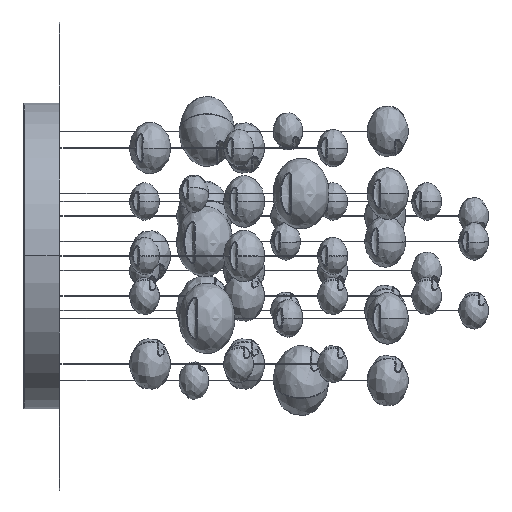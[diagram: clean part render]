
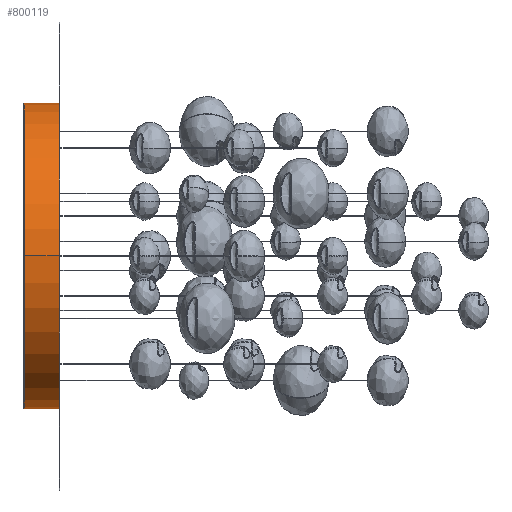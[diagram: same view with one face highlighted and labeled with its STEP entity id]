
A CAD part, left-side view. The second image highlights one B-rep face of the part: STEP entity #800119.
In plain terms, the highlighted cylindrical face has radius 325 mm (diameter 650 mm), a partial arc.
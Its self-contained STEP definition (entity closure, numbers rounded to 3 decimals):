
#69259 = VECTOR ( 'NONE', #338932, 1000. ) ;
#86686 = DIRECTION ( 'NONE',  ( 0., -1., 0. ) ) ;
#98817 = ORIENTED_EDGE ( 'NONE', *, *, #834849, .T. ) ;
#99121 = CYLINDRICAL_SURFACE ( 'NONE', #650508, 325. ) ;
#220320 = ORIENTED_EDGE ( 'NONE', *, *, #420968, .T. ) ;
#257444 = CARTESIAN_POINT ( 'NONE',  ( 0., 0., 325. ) ) ;
#273586 = CIRCLE ( 'NONE', #855405, 325. ) ;
#275609 = CARTESIAN_POINT ( 'NONE',  ( 0., 74., 0. ) ) ;
#284796 = LINE ( 'NONE', #257444, #69259 ) ;
#284907 = VERTEX_POINT ( 'NONE', #382647 ) ;
#315652 = DIRECTION ( 'NONE',  ( 0., -1., 0. ) ) ;
#338932 = DIRECTION ( 'NONE',  ( 0., -1., 0. ) ) ;
#357089 = DIRECTION ( 'NONE',  ( 0., 0., -1. ) ) ;
#382647 = CARTESIAN_POINT ( 'NONE',  ( 0., 0., 325. ) ) ;
#418782 = CARTESIAN_POINT ( 'NONE',  ( 0., 74., -325. ) ) ;
#420968 = EDGE_CURVE ( 'NONE', #666137, #539090, #702198, .T. ) ;
#424057 = VERTEX_POINT ( 'NONE', #709524 ) ;
#451506 = VECTOR ( 'NONE', #315652, 1000. ) ;
#508215 = DIRECTION ( 'NONE',  ( 0., 0., -1. ) ) ;
#516565 = ORIENTED_EDGE ( 'NONE', *, *, #613172, .F. ) ;
#539090 = VERTEX_POINT ( 'NONE', #418782 ) ;
#572187 = CARTESIAN_POINT ( 'NONE',  ( 0., 0., 0. ) ) ;
#613172 = EDGE_CURVE ( 'NONE', #284907, #424057, #273586, .T. ) ;
#632156 = EDGE_CURVE ( 'NONE', #666137, #284907, #284796, .T. ) ;
#650508 = AXIS2_PLACEMENT_3D ( 'NONE', #692140, #671228, #508215 ) ;
#653688 = DIRECTION ( 'NONE',  ( 0., 0., -1. ) ) ;
#666137 = VERTEX_POINT ( 'NONE', #1042555 ) ;
#668307 = AXIS2_PLACEMENT_3D ( 'NONE', #275609, #842632, #357089 ) ;
#671228 = DIRECTION ( 'NONE',  ( 0., -1., 0. ) ) ;
#692140 = CARTESIAN_POINT ( 'NONE',  ( 0., 0., 0. ) ) ;
#702198 = CIRCLE ( 'NONE', #668307, 325. ) ;
#709524 = CARTESIAN_POINT ( 'NONE',  ( 0., 0., -325. ) ) ;
#771190 = FACE_OUTER_BOUND ( 'NONE', #1026176, .T. ) ;
#800119 = ADVANCED_FACE ( 'NONE', ( #771190 ), #99121, .T. ) ;
#801188 = CARTESIAN_POINT ( 'NONE',  ( 0., 0., -325. ) ) ;
#834849 = EDGE_CURVE ( 'NONE', #539090, #424057, #1047590, .T. ) ;
#842632 = DIRECTION ( 'NONE',  ( 0., -1., 0. ) ) ;
#855405 = AXIS2_PLACEMENT_3D ( 'NONE', #572187, #86686, #653688 ) ;
#859495 = ORIENTED_EDGE ( 'NONE', *, *, #632156, .F. ) ;
#1026176 = EDGE_LOOP ( 'NONE', ( #859495, #220320, #98817, #516565 ) ) ;
#1042555 = CARTESIAN_POINT ( 'NONE',  ( 0., 74., 325. ) ) ;
#1047590 = LINE ( 'NONE', #801188, #451506 ) ;
